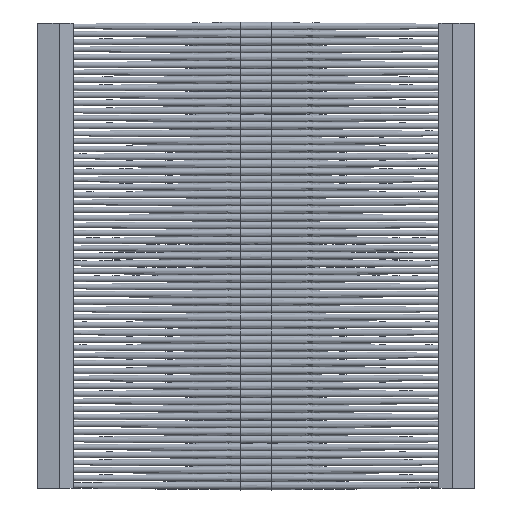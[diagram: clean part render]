
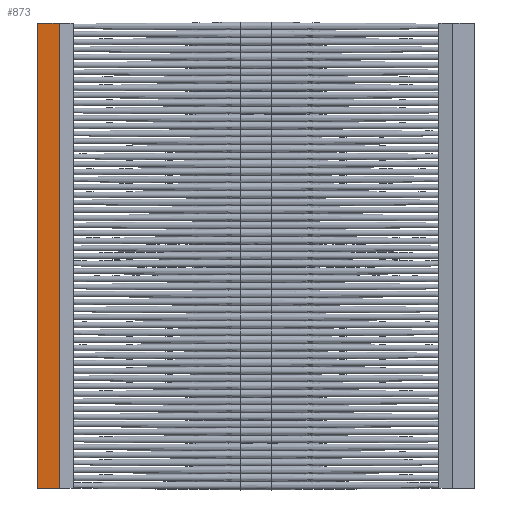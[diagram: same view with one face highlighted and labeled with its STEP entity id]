
A CAD part, front view. The second image highlights one B-rep face of the part: STEP entity #873.
In plain terms, the highlighted planar face has unit normal (-0.09, -0.996, 0) as drawn and (0, -0.091, 0.996) by its records, which use the part's own axes.
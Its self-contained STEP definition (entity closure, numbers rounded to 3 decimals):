
#847 = VERTEX_POINT('',#848);
#848 = CARTESIAN_POINT('',(-117.,-7.,4.75));
#854 = EDGE_CURVE('',#855,#847,#857,.T.);
#855 = VERTEX_POINT('',#856);
#856 = CARTESIAN_POINT('',(117.,-7.,4.75));
#857 = LINE('',#858,#859);
#858 = CARTESIAN_POINT('',(117.,-7.,4.75));
#859 = VECTOR('',#860,1.);
#860 = DIRECTION('',(-1.,-0.,-0.));
#873 = ADVANCED_FACE('',(#874),#899,.F.);
#874 = FACE_BOUND('',#875,.T.);
#875 = EDGE_LOOP('',(#876,#884,#892,#898));
#876 = ORIENTED_EDGE('',*,*,#877,.T.);
#877 = EDGE_CURVE('',#847,#878,#880,.T.);
#878 = VERTEX_POINT('',#879);
#879 = CARTESIAN_POINT('',(-117.,-18.,3.75));
#880 = LINE('',#881,#882);
#881 = CARTESIAN_POINT('',(-117.,-7.349,4.718));
#882 = VECTOR('',#883,1.);
#883 = DIRECTION('',(0.,-0.996,-0.091));
#884 = ORIENTED_EDGE('',*,*,#885,.F.);
#885 = EDGE_CURVE('',#886,#878,#888,.T.);
#886 = VERTEX_POINT('',#887);
#887 = CARTESIAN_POINT('',(117.,-18.,3.75));
#888 = LINE('',#889,#890);
#889 = CARTESIAN_POINT('',(117.,-18.,3.75));
#890 = VECTOR('',#891,1.);
#891 = DIRECTION('',(-1.,-0.,-0.));
#892 = ORIENTED_EDGE('',*,*,#893,.F.);
#893 = EDGE_CURVE('',#855,#886,#894,.T.);
#894 = LINE('',#895,#896);
#895 = CARTESIAN_POINT('',(117.,-7.349,4.718));
#896 = VECTOR('',#897,1.);
#897 = DIRECTION('',(0.,-0.996,-0.091));
#898 = ORIENTED_EDGE('',*,*,#854,.T.);
#899 = PLANE('',#900);
#900 = AXIS2_PLACEMENT_3D('',#901,#902,#903);
#901 = CARTESIAN_POINT('',(117.,-7.349,4.718));
#902 = DIRECTION('',(0.,0.091,-0.996));
#903 = DIRECTION('',(0.,0.996,0.091));
